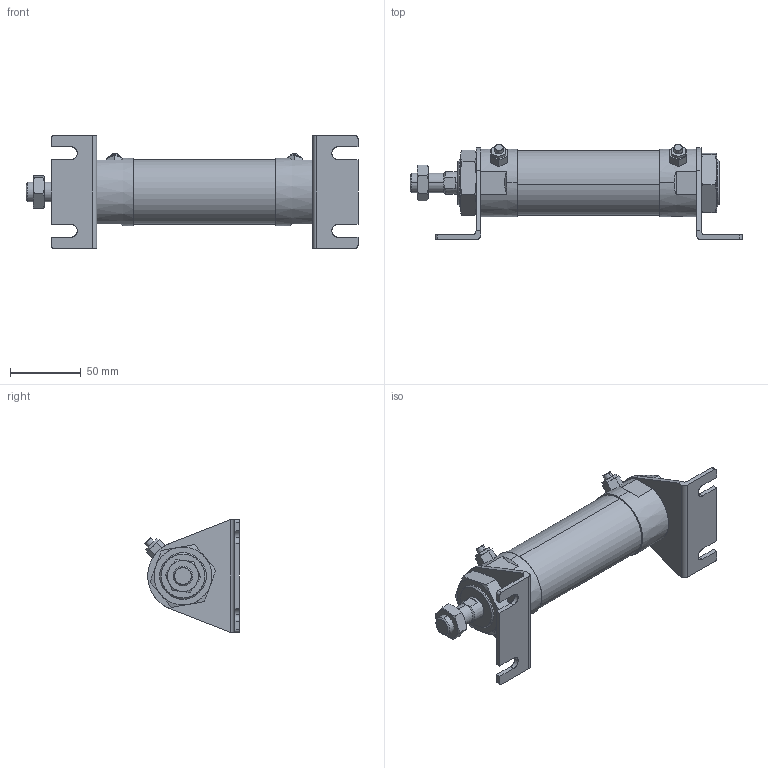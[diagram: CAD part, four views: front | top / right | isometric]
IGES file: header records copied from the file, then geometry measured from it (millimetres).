
Start section: SolidWorks IGES file using analytic representation for surfaces
Global section: file name: C:\Users\Toshiba\Desktop\JG2-40-50-L.IGS; native system: SolidWorks 2014; preprocessor: SolidWorks 2014; author: Toshiba; date: 160419.085238; units: millimetre
Bounding box: 235.2 x 67.22 x 80 mm (x, y, z)
Surface area: 71261.9 mm2 (no closed solid volume)
Topology: 0 solids, 0 shells, 206 faces, 3418 edges, 3414 vertices
Faces by surface type: bspline 139, revolution 67
